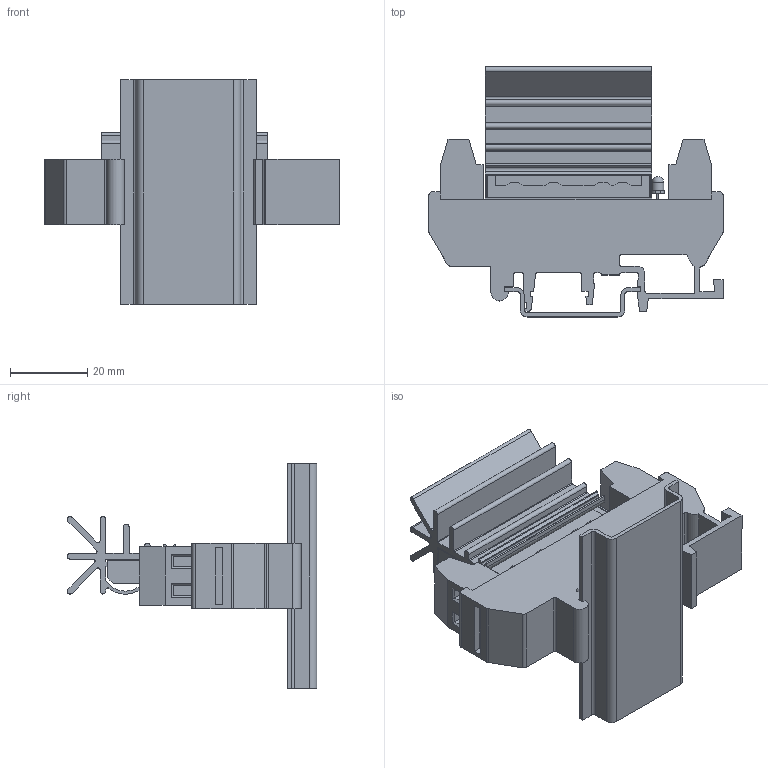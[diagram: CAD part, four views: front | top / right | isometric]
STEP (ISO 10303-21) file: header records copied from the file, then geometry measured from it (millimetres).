
FILE_DESCRIPTION(/* description */ (''),/* implementation_level */ '2;1');
FILE_NAME(/* name */ 'C:\Users\gmarion\Desktop\Nouveau dossier\2D3D 625 A.stp',/* time_stamp */ '2015-03-10T09:02:21+01:00',/* author */ ('Guillaume MARION Technicien méthodes +33 (0)4 77 53 90 29'),/* organization */ ('5, Rue Ampère, BP 30004 42 290 Sorbiers, France +33 (0)4 77 53 90 00 www.celduc.com'),/* preprocessor_version */ 'ST-DEVELOPER v15.2',/* originating_system */ 'Autodesk Inventor 2014',/* authorisation */ '');
FILE_SCHEMA (('AUTOMOTIVE_DESIGN { 1 0 10303 214 3 1 1 }'));
Length unit declared in the file: millimetre
Products named in the file (16): 1N703500; B1; B2; B3; B4; B5; B6; B7; B8; SKL et dissip; XKH; DEL Ø3; 1K 171 000; MV272-7.5-V-BK; rail din L58; XKH20120
Assembly tree (16 placements, depth 4):
  XKH20120
    XKH
      1N703500
      SKL et dissip
        B1
        B2
        B3
        B4
        B5
        B6
        B7
        B8
    DEL Ø3
    1K 171 000
    MV272-7.5-V-BK  x2
    rail din L58
Bounding box: 76 x 64.5 x 58 mm (x, y, z)
Volume: 31071.8 mm3; surface area: 37163.4 mm2
Topology: 14 solids, 14 shells, 395 faces, 1026 edges, 670 vertices
Faces by surface type: plane 298, cylinder 92, bspline 4, sphere 1
Full cylindrical faces by diameter (mm): 0.5 x2, 1 x4, 1.2 x4, 1.3 x4, 3 x1, 4 x4
Entity records: 11382 total; most frequent: CARTESIAN_POINT 2197, DIRECTION 1839, ORIENTED_EDGE 1788, EDGE_CURVE 894, LINE 713, VECTOR 713, VERTEX_POINT 597, AXIS2_PLACEMENT_3D 563
